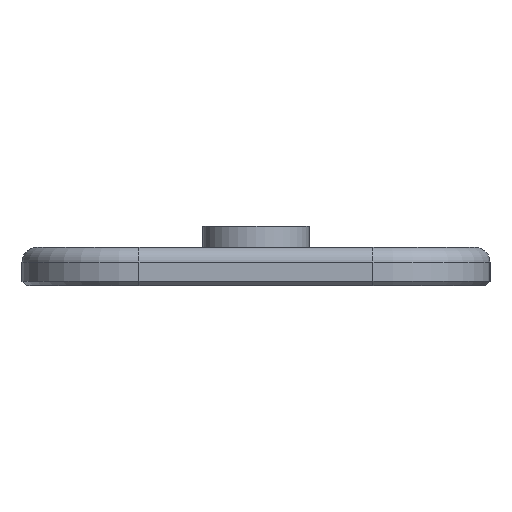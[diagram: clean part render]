
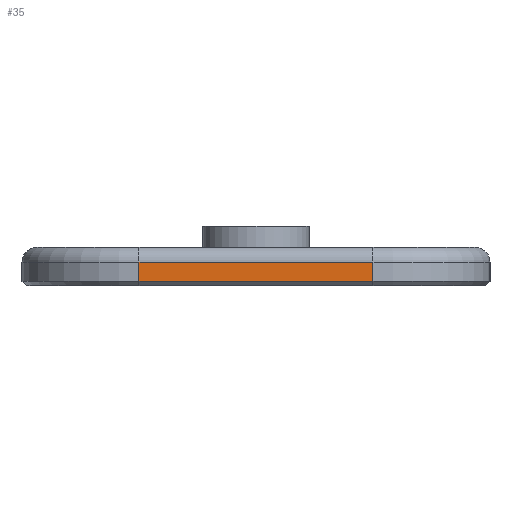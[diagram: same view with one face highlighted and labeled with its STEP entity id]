
A CAD part, left-side view. The second image highlights one B-rep face of the part: STEP entity #35.
In plain terms, the highlighted planar face has unit normal (-1, 0, 0).
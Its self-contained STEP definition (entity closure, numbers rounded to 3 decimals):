
#35 = ADVANCED_FACE('',(#36),#50,.T.);
#36 = FACE_BOUND('',#37,.T.);
#37 = EDGE_LOOP('',(#38,#73,#101,#129));
#38 = ORIENTED_EDGE('',*,*,#39,.T.);
#39 = EDGE_CURVE('',#40,#42,#44,.T.);
#40 = VERTEX_POINT('',#41);
#41 = CARTESIAN_POINT('',(-129.,-5.5,0.2));
#42 = VERTEX_POINT('',#43);
#43 = CARTESIAN_POINT('',(-129.,-5.5,1.1));
#44 = SURFACE_CURVE('',#45,(#49,#61),.PCURVE_S1.);
#45 = LINE('',#46,#47);
#46 = CARTESIAN_POINT('',(-129.,-5.5,0.));
#47 = VECTOR('',#48,1.);
#48 = DIRECTION('',(0.,0.,1.));
#49 = PCURVE('',#50,#55);
#50 = PLANE('',#51);
#51 = AXIS2_PLACEMENT_3D('',#52,#53,#54);
#52 = CARTESIAN_POINT('',(-129.,-5.5,0.));
#53 = DIRECTION('',(-1.,0.,0.));
#54 = DIRECTION('',(0.,1.,0.));
#55 = DEFINITIONAL_REPRESENTATION('',(#56),#60);
#56 = LINE('',#57,#58);
#57 = CARTESIAN_POINT('',(0.,0.));
#58 = VECTOR('',#59,1.);
#59 = DIRECTION('',(0.,-1.));
#60 = ( GEOMETRIC_REPRESENTATION_CONTEXT(2) 
PARAMETRIC_REPRESENTATION_CONTEXT() REPRESENTATION_CONTEXT('2D SPACE',''
  ) );
#61 = PCURVE('',#62,#67);
#62 = CYLINDRICAL_SURFACE('',#63,5.5);
#63 = AXIS2_PLACEMENT_3D('',#64,#65,#66);
#64 = CARTESIAN_POINT('',(-123.5,-5.5,0.));
#65 = DIRECTION('',(-0.,-0.,-1.));
#66 = DIRECTION('',(1.,0.,0.));
#67 = DEFINITIONAL_REPRESENTATION('',(#68),#72);
#68 = LINE('',#69,#70);
#69 = CARTESIAN_POINT('',(-3.142,0.));
#70 = VECTOR('',#71,1.);
#71 = DIRECTION('',(-0.,-1.));
#72 = ( GEOMETRIC_REPRESENTATION_CONTEXT(2) 
PARAMETRIC_REPRESENTATION_CONTEXT() REPRESENTATION_CONTEXT('2D SPACE',''
  ) );
#73 = ORIENTED_EDGE('',*,*,#74,.T.);
#74 = EDGE_CURVE('',#42,#75,#77,.T.);
#75 = VERTEX_POINT('',#76);
#76 = CARTESIAN_POINT('',(-129.,5.5,1.1));
#77 = SURFACE_CURVE('',#78,(#82,#89),.PCURVE_S1.);
#78 = LINE('',#79,#80);
#79 = CARTESIAN_POINT('',(-129.,-5.5,1.1));
#80 = VECTOR('',#81,1.);
#81 = DIRECTION('',(0.,1.,0.));
#82 = PCURVE('',#50,#83);
#83 = DEFINITIONAL_REPRESENTATION('',(#84),#88);
#84 = LINE('',#85,#86);
#85 = CARTESIAN_POINT('',(0.,-1.1));
#86 = VECTOR('',#87,1.);
#87 = DIRECTION('',(1.,0.));
#88 = ( GEOMETRIC_REPRESENTATION_CONTEXT(2) 
PARAMETRIC_REPRESENTATION_CONTEXT() REPRESENTATION_CONTEXT('2D SPACE',''
  ) );
#89 = PCURVE('',#90,#95);
#90 = CYLINDRICAL_SURFACE('',#91,0.7);
#91 = AXIS2_PLACEMENT_3D('',#92,#93,#94);
#92 = CARTESIAN_POINT('',(-128.3,-5.5,1.1));
#93 = DIRECTION('',(0.,1.,0.));
#94 = DIRECTION('',(-1.,0.,0.));
#95 = DEFINITIONAL_REPRESENTATION('',(#96),#100);
#96 = LINE('',#97,#98);
#97 = CARTESIAN_POINT('',(0.,0.));
#98 = VECTOR('',#99,1.);
#99 = DIRECTION('',(0.,1.));
#100 = ( GEOMETRIC_REPRESENTATION_CONTEXT(2) 
PARAMETRIC_REPRESENTATION_CONTEXT() REPRESENTATION_CONTEXT('2D SPACE',''
  ) );
#101 = ORIENTED_EDGE('',*,*,#102,.F.);
#102 = EDGE_CURVE('',#103,#75,#105,.T.);
#103 = VERTEX_POINT('',#104);
#104 = CARTESIAN_POINT('',(-129.,5.5,0.2));
#105 = SURFACE_CURVE('',#106,(#110,#117),.PCURVE_S1.);
#106 = LINE('',#107,#108);
#107 = CARTESIAN_POINT('',(-129.,5.5,0.));
#108 = VECTOR('',#109,1.);
#109 = DIRECTION('',(0.,0.,1.));
#110 = PCURVE('',#50,#111);
#111 = DEFINITIONAL_REPRESENTATION('',(#112),#116);
#112 = LINE('',#113,#114);
#113 = CARTESIAN_POINT('',(11.,0.));
#114 = VECTOR('',#115,1.);
#115 = DIRECTION('',(0.,-1.));
#116 = ( GEOMETRIC_REPRESENTATION_CONTEXT(2) 
PARAMETRIC_REPRESENTATION_CONTEXT() REPRESENTATION_CONTEXT('2D SPACE',''
  ) );
#117 = PCURVE('',#118,#123);
#118 = CYLINDRICAL_SURFACE('',#119,5.5);
#119 = AXIS2_PLACEMENT_3D('',#120,#121,#122);
#120 = CARTESIAN_POINT('',(-123.5,5.5,0.));
#121 = DIRECTION('',(-0.,-0.,-1.));
#122 = DIRECTION('',(1.,0.,0.));
#123 = DEFINITIONAL_REPRESENTATION('',(#124),#128);
#124 = LINE('',#125,#126);
#125 = CARTESIAN_POINT('',(-3.142,0.));
#126 = VECTOR('',#127,1.);
#127 = DIRECTION('',(-0.,-1.));
#128 = ( GEOMETRIC_REPRESENTATION_CONTEXT(2) 
PARAMETRIC_REPRESENTATION_CONTEXT() REPRESENTATION_CONTEXT('2D SPACE',''
  ) );
#129 = ORIENTED_EDGE('',*,*,#130,.F.);
#130 = EDGE_CURVE('',#40,#103,#131,.T.);
#131 = SURFACE_CURVE('',#132,(#136,#143),.PCURVE_S1.);
#132 = LINE('',#133,#134);
#133 = CARTESIAN_POINT('',(-129.,-5.5,0.2));
#134 = VECTOR('',#135,1.);
#135 = DIRECTION('',(0.,1.,0.));
#136 = PCURVE('',#50,#137);
#137 = DEFINITIONAL_REPRESENTATION('',(#138),#142);
#138 = LINE('',#139,#140);
#139 = CARTESIAN_POINT('',(0.,-0.2));
#140 = VECTOR('',#141,1.);
#141 = DIRECTION('',(1.,0.));
#142 = ( GEOMETRIC_REPRESENTATION_CONTEXT(2) 
PARAMETRIC_REPRESENTATION_CONTEXT() REPRESENTATION_CONTEXT('2D SPACE',''
  ) );
#143 = PCURVE('',#144,#149);
#144 = PLANE('',#145);
#145 = AXIS2_PLACEMENT_3D('',#146,#147,#148);
#146 = CARTESIAN_POINT('',(-128.9,-5.5,0.1));
#147 = DIRECTION('',(0.707,0.,0.707)
  );
#148 = DIRECTION('',(0.,-1.,0.));
#149 = DEFINITIONAL_REPRESENTATION('',(#150),#154);
#150 = LINE('',#151,#152);
#151 = CARTESIAN_POINT('',(-0.,-0.141));
#152 = VECTOR('',#153,1.);
#153 = DIRECTION('',(-1.,0.));
#154 = ( GEOMETRIC_REPRESENTATION_CONTEXT(2) 
PARAMETRIC_REPRESENTATION_CONTEXT() REPRESENTATION_CONTEXT('2D SPACE',''
  ) );
